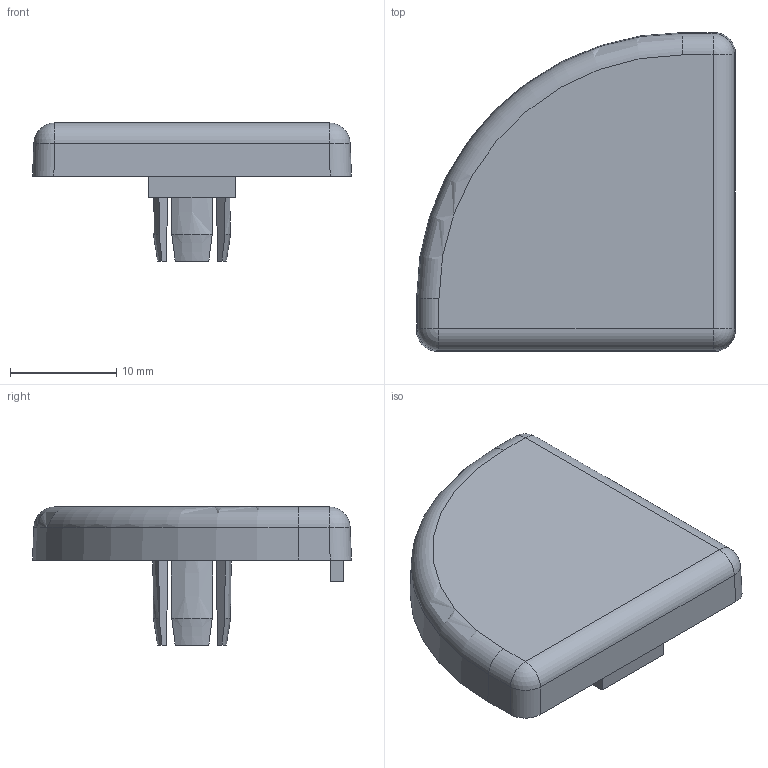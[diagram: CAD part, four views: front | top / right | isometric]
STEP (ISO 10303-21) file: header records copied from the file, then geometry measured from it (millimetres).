
FILE_DESCRIPTION(/* description */ (''),/* implementation_level */ '2;1');
FILE_NAME(/* name */ 'Plastic End Cap - 30 Series - 30x30 - 90 Degree Radius.step',/* time_stamp */ '2025-05-14T19:15:33+03:00',/* author */ (''),/* organization */ (''),/* preprocessor_version */ 'ST-DEVELOPER v20.1',/* originating_system */ 'Autodesk Translation Framework v14.4.0.0',/* authorisation */ '');
FILE_SCHEMA (('AUTOMOTIVE_DESIGN { 1 0 10303 214 3 1 1 }','MODEL_BASED_INTEGRATED_MANUFACTURING_SCHEMA'));
Length unit declared in the file: millimetre
Products named in the file (1): ASUS26B4838259i9
Bounding box: 30 x 30 x 13 mm (x, y, z)
Volume: 2183.9 mm3; surface area: 2669.9 mm2
Topology: 1 solids, 1 shells, 62 faces, 166 edges, 105 vertices
Faces by surface type: plane 40, cylinder 11, cone 7, sphere 3, torus 1
Entity records: 2058 total; most frequent: CARTESIAN_POINT 481, ORIENTED_EDGE 326, DIRECTION 322, EDGE_CURVE 163, AXIS2_PLACEMENT_3D 120, VERTEX_POINT 105, LINE 82, VECTOR 82
